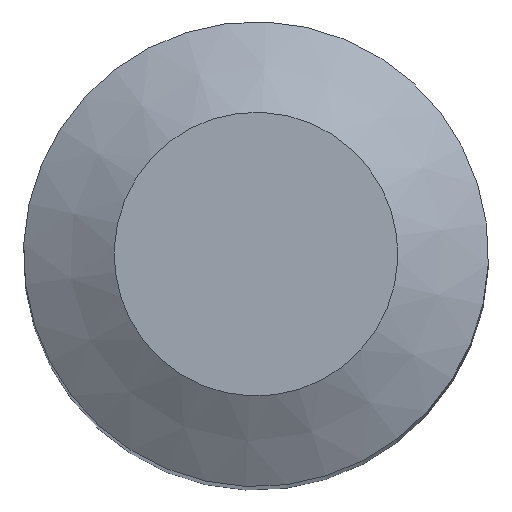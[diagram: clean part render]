
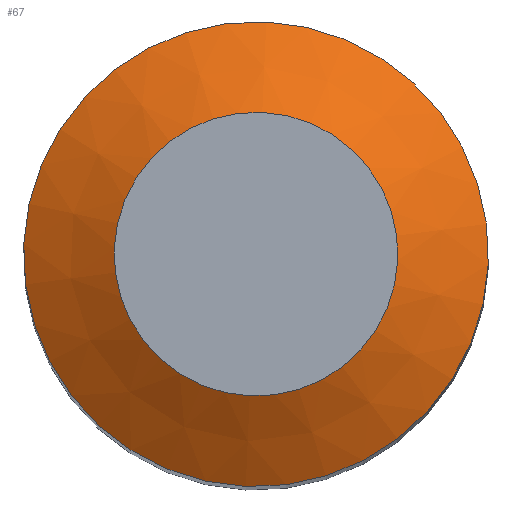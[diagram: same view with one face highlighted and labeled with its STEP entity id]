
A CAD part, top view. The second image highlights one B-rep face of the part: STEP entity #67.
In plain terms, the highlighted conical face has half-angle 60 degrees and reference radius 4 mm.
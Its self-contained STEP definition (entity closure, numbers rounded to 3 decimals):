
#48=CONICAL_SURFACE('',#178,4.,60.);
#59=FACE_BOUND('',#86,.T.);
#60=FACE_BOUND('',#87,.T.);
#67=ADVANCED_FACE('',(#59,#60),#48,.T.);
#86=EDGE_LOOP('',(#100));
#87=EDGE_LOOP('',(#101));
#100=ORIENTED_EDGE('',*,*,#118,.F.);
#101=ORIENTED_EDGE('',*,*,#117,.T.);
#110=VERTEX_POINT('',#246);
#111=VERTEX_POINT('',#249);
#117=EDGE_CURVE('',#110,#110,#124,.T.);
#118=EDGE_CURVE('',#111,#111,#125,.T.);
#124=CIRCLE('',#175,4.);
#125=CIRCLE('',#177,2.441);
#175=AXIS2_PLACEMENT_3D('',#245,#211,#212);
#177=AXIS2_PLACEMENT_3D('',#248,#215,#216);
#178=AXIS2_PLACEMENT_3D('',#250,#217,#218);
#211=DIRECTION('',(0.,0.,1.));
#212=DIRECTION('',(-0.3,0.954,0.));
#215=DIRECTION('',(0.,0.,1.));
#216=DIRECTION('',(-0.3,0.954,0.));
#217=DIRECTION('',(0.,0.,-1.));
#218=DIRECTION('',(0.3,-0.954,0.));
#245=CARTESIAN_POINT('',(0.,0.,-0.9));
#246=CARTESIAN_POINT('',(-1.201,3.816,-0.9));
#248=CARTESIAN_POINT('',(0.,0.,0.));
#249=CARTESIAN_POINT('',(-0.733,2.329,0.));
#250=CARTESIAN_POINT('',(0.,0.,-0.9));
